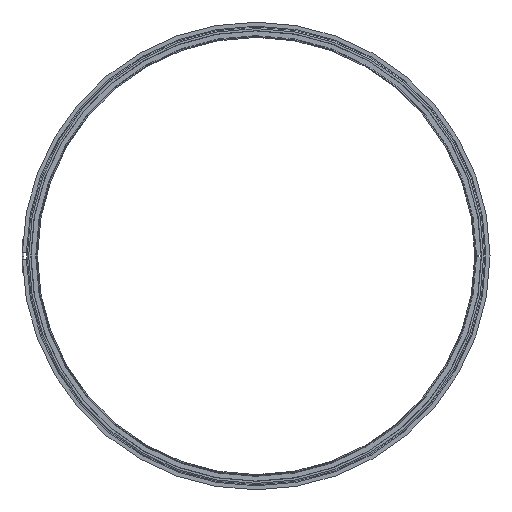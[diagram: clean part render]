
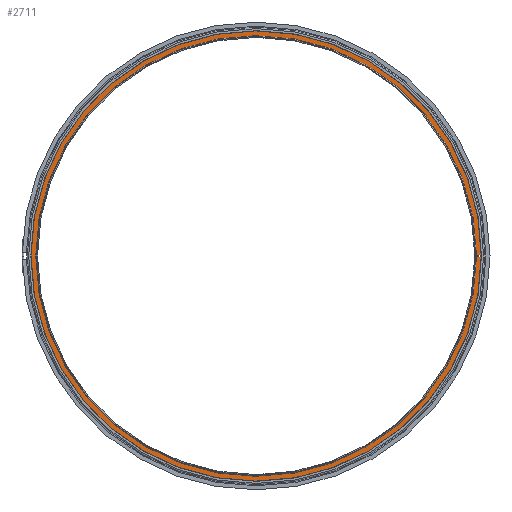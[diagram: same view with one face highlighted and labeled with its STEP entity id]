
A CAD part, left-side view. The second image highlights one B-rep face of the part: STEP entity #2711.
In plain terms, the highlighted planar face has unit normal (-1, 0, 0).
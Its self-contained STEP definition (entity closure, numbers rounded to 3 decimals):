
#704=CARTESIAN_POINT('',(-2.823,332.6,0.));
#705=VERTEX_POINT('',#704);
#714=CARTESIAN_POINT('',(-2.823,-332.598,1.));
#715=VERTEX_POINT('',#714);
#716=CARTESIAN_POINT('',(-2.823,0.,0.0));
#717=DIRECTION('',(1.0,0.0,0.0));
#718=DIRECTION('',(0.0,1.0,0.0));
#719=AXIS2_PLACEMENT_3D('',#716,#717,#718);
#720=CIRCLE('',#719,332.6);
#721=EDGE_CURVE('',#705,#715,#720,.T.);
#911=CARTESIAN_POINT('',(-2.823,325.5,0.));
#912=VERTEX_POINT('',#911);
#928=CARTESIAN_POINT('',(-2.823,-325.498,1.));
#929=VERTEX_POINT('',#928);
#936=CARTESIAN_POINT('',(-2.823,0.,0.0));
#937=DIRECTION('',(1.0,0.0,0.0));
#938=DIRECTION('',(0.0,1.0,0.0));
#939=AXIS2_PLACEMENT_3D('',#936,#937,#938);
#940=CIRCLE('',#939,325.5);
#941=EDGE_CURVE('',#912,#929,#940,.T.);
#2420=CARTESIAN_POINT('',(-2.823,-332.598,-1.));
#2421=VERTEX_POINT('',#2420);
#2422=CARTESIAN_POINT('',(-2.823,-325.498,-1.));
#2423=VERTEX_POINT('',#2422);
#2424=CARTESIAN_POINT('',(-2.823,-332.598,-1.));
#2425=DIRECTION('',(0.0,1.0,0.0));
#2426=VECTOR('',#2425,7.1);
#2427=LINE('',#2424,#2426);
#2428=EDGE_CURVE('',#2421,#2423,#2427,.T.);
#2489=CARTESIAN_POINT('',(-2.823,-325.498,1.));
#2490=DIRECTION('',(0.0,-1.0,0.0));
#2491=VECTOR('',#2490,7.1);
#2492=LINE('',#2489,#2491);
#2493=EDGE_CURVE('',#929,#715,#2492,.T.);
#2554=CARTESIAN_POINT('',(-2.823,0.,0.0));
#2555=DIRECTION('',(1.0,0.0,0.0));
#2556=DIRECTION('',(0.0,1.0,0.0));
#2557=AXIS2_PLACEMENT_3D('',#2554,#2555,#2556);
#2558=CIRCLE('',#2557,325.5);
#2559=EDGE_CURVE('',#2423,#912,#2558,.T.);
#2692=CARTESIAN_POINT('',(-2.823,329.05,0.0));
#2693=DIRECTION('',(-1.0,0.0,0.0));
#2694=DIRECTION('',(0.0,0.0,1.0));
#2695=AXIS2_PLACEMENT_3D('',#2692,#2693,#2694);
#2696=PLANE('',#2695);
#2697=ORIENTED_EDGE('',*,*,#2428,.T.);
#2698=ORIENTED_EDGE('',*,*,#2559,.T.);
#2699=ORIENTED_EDGE('',*,*,#941,.T.);
#2700=ORIENTED_EDGE('',*,*,#2493,.T.);
#2701=ORIENTED_EDGE('',*,*,#721,.F.);
#2702=CARTESIAN_POINT('',(-2.823,0.,0.0));
#2703=DIRECTION('',(1.0,0.0,0.0));
#2704=DIRECTION('',(0.0,1.0,0.0));
#2705=AXIS2_PLACEMENT_3D('',#2702,#2703,#2704);
#2706=CIRCLE('',#2705,332.6);
#2707=EDGE_CURVE('',#2421,#705,#2706,.T.);
#2708=ORIENTED_EDGE('',*,*,#2707,.F.);
#2709=EDGE_LOOP('',(#2697,#2698,#2699,#2700,#2701,#2708));
#2710=FACE_OUTER_BOUND('',#2709,.T.);
#2711=ADVANCED_FACE('',(#2710),#2696,.T.);
